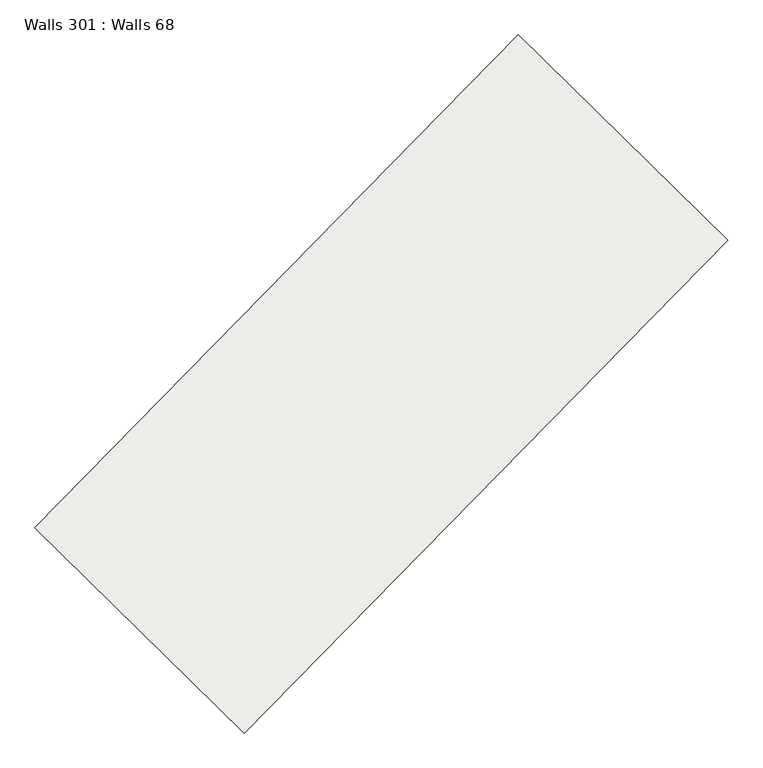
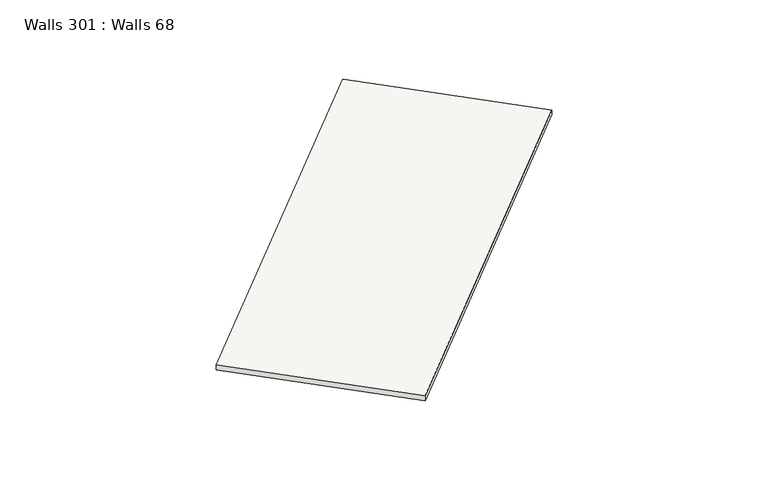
"""IFC4 building model written with IfcOpenShell, lengths in millimetres: slab geometry, Walls 301 : Walls 68."""

from ifc_helpers import new_model, si_unit, frame, origin, place, context, project, spatial, polyline, outline, extrude, source, transform, mapped, element, save


def walls_301_walls_68_38eaf412(model_context):
    return source(origin(), model_context, "Body", "SweptSolid", [
        extrude(outline(polyline([(-50.0, 0.0), (50.0, 0.0), (-40.0, -8699.9999995), (-140.0, -8699.9999995), (-50.0, 0.0)])), frame((30517.8443239, -128246.6260474, 638490.0), z_axis=(-0.7137361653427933, 0.7004146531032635, 0.0), x_axis=(0.0, 0.0, 1.0)), (0.0, 0.0, 1.0), 3699.999995),
    ])


if __name__ == "__main__":
    model = new_model("IFC4")
    model_context = context("Model", 3, world=origin())
    ifc_project = project(units=[si_unit("LENGTHUNIT", "METRE", prefix="MILLI")], contexts=[model_context])
    site = spatial("IfcSite", under=ifc_project)
    building = spatial("IfcBuilding", under=site)
    placement = place(None, origin())
    walls_301_walls_68_shape = walls_301_walls_68_38eaf412(model_context)
    element("IfcSlab", 1, ObjectType="Walls 301 : Walls 68", at=placement, inside=building, context=model_context, shape_type="MappedRepresentation", body=[
        mapped(walls_301_walls_68_shape, transform((0.0, 0.0, 0.0), x_axis=(1.0, 0.0, 0.0), y_axis=(0.0, 1.0, 0.0), z_axis=(0.0, 0.0, 1.0))),
    ])
    save(model, "model.ifc")
